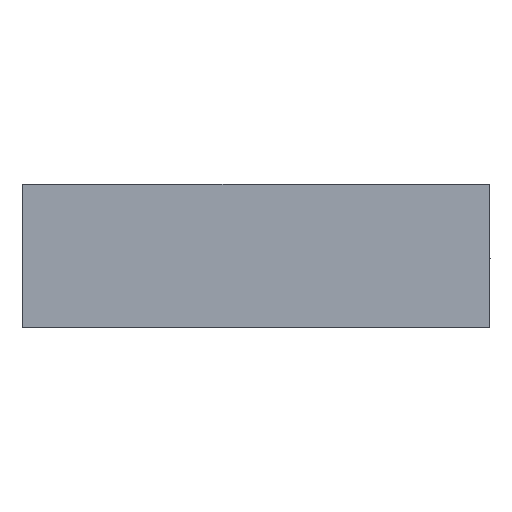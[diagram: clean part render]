
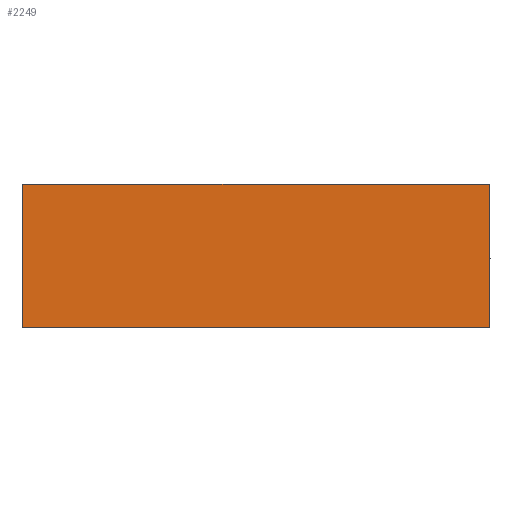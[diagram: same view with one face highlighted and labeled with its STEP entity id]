
A CAD part, front view. The second image highlights one B-rep face of the part: STEP entity #2249.
In plain terms, the highlighted planar face has unit normal (0, -1, 0).
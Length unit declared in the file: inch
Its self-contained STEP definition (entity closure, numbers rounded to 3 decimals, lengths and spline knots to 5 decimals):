
#78 = LINE ( 'NONE', #3972, #21909 ) ;
#695 = LINE ( 'NONE', #5052, #18557 ) ;
#852 = VERTEX_POINT ( 'NONE', #20154 ) ;
#904 = LINE ( 'NONE', #22171, #14271 ) ;
#1182 = LINE ( 'NONE', #9454, #19517 ) ;
#1301 = VECTOR ( 'NONE', #2490, 39.37008 ) ;
#1366 = ORIENTED_EDGE ( 'NONE', *, *, #7230, .T. ) ;
#1367 = CARTESIAN_POINT ( 'NONE',  ( 9.58623, 0., 0. ) ) ;
#1795 = VERTEX_POINT ( 'NONE', #2923 ) ;
#1863 = DIRECTION ( 'NONE',  ( -1., 0., 0. ) ) ;
#2093 = VECTOR ( 'NONE', #9819, 39.37008 ) ;
#2159 = VECTOR ( 'NONE', #8678, 39.37008 ) ;
#2249 = ADVANCED_FACE ( 'NONE', ( #10739 ), #20969, .F. ) ;
#2490 = DIRECTION ( 'NONE',  ( -1., 0., 0. ) ) ;
#2829 = VERTEX_POINT ( 'NONE', #11012 ) ;
#2923 = CARTESIAN_POINT ( 'NONE',  ( 9.15377, 0., 0. ) ) ;
#3045 = LINE ( 'NONE', #17851, #21162 ) ;
#3066 = VERTEX_POINT ( 'NONE', #5134 ) ;
#3128 = CARTESIAN_POINT ( 'NONE',  ( 2.15377, 0., 0. ) ) ;
#3132 = ORIENTED_EDGE ( 'NONE', *, *, #5915, .T. ) ;
#3140 = CARTESIAN_POINT ( 'NONE',  ( 19.56, 0., -0.031 ) ) ;
#3543 = DIRECTION ( 'NONE',  ( -1., 0., 0. ) ) ;
#3972 = CARTESIAN_POINT ( 'NONE',  ( 19.56, 0., 0. ) ) ;
#4051 = DIRECTION ( 'NONE',  ( 0., 0., -1. ) ) ;
#4114 = CARTESIAN_POINT ( 'NONE',  ( 16.58623, 0., -0.031 ) ) ;
#4443 = LINE ( 'NONE', #12626, #13003 ) ;
#4574 = VERTEX_POINT ( 'NONE', #4114 ) ;
#4857 = VERTEX_POINT ( 'NONE', #12762 ) ;
#5016 = VERTEX_POINT ( 'NONE', #18789 ) ;
#5052 = CARTESIAN_POINT ( 'NONE',  ( 19.56, 0., -6. ) ) ;
#5134 = CARTESIAN_POINT ( 'NONE',  ( 0., 0., 0. ) ) ;
#5366 = CARTESIAN_POINT ( 'NONE',  ( 19.56, 0., 0. ) ) ;
#5532 = VERTEX_POINT ( 'NONE', #5366 ) ;
#5543 = LINE ( 'NONE', #20682, #10115 ) ;
#5667 = ORIENTED_EDGE ( 'NONE', *, *, #19879, .T. ) ;
#5731 = EDGE_CURVE ( 'NONE', #4574, #8993, #10682, .T. ) ;
#5784 = DIRECTION ( 'NONE',  ( -1., 0., 0. ) ) ;
#5900 = CARTESIAN_POINT ( 'NONE',  ( 2.58623, 0., -0.031 ) ) ;
#5915 = EDGE_CURVE ( 'NONE', #13438, #18146, #21432, .T. ) ;
#6058 = EDGE_CURVE ( 'NONE', #3066, #2829, #3045, .T. ) ;
#6130 = EDGE_CURVE ( 'NONE', #4857, #2829, #695, .T. ) ;
#6424 = EDGE_LOOP ( 'NONE', ( #7567, #12552, #10717, #11238, #17829, #9430, #19928, #15996, #9686, #5667, #1366, #3132, #8398, #13382, #11001, #16014 ) ) ;
#6562 = VERTEX_POINT ( 'NONE', #5900 ) ;
#6606 = EDGE_CURVE ( 'NONE', #18812, #3066, #4443, .T. ) ;
#6787 = CARTESIAN_POINT ( 'NONE',  ( 9.58623, 0., -0.031 ) ) ;
#6948 = VECTOR ( 'NONE', #11427, 39.37008 ) ;
#7137 = EDGE_CURVE ( 'NONE', #5532, #11079, #5543, .T. ) ;
#7141 = CARTESIAN_POINT ( 'NONE',  ( 19.56, 0., 0. ) ) ;
#7230 = EDGE_CURVE ( 'NONE', #852, #13438, #78, .T. ) ;
#7323 = EDGE_CURVE ( 'NONE', #1795, #17599, #21368, .T. ) ;
#7389 = EDGE_CURVE ( 'NONE', #11079, #4574, #20327, .T. ) ;
#7424 = EDGE_CURVE ( 'NONE', #18146, #10896, #19296, .T. ) ;
#7567 = ORIENTED_EDGE ( 'NONE', *, *, #8161, .T. ) ;
#7723 = DIRECTION ( 'NONE',  ( -1., 0., 0. ) ) ;
#8052 = CARTESIAN_POINT ( 'NONE',  ( 16.58623, 0., 0. ) ) ;
#8161 = EDGE_CURVE ( 'NONE', #6562, #5016, #904, .T. ) ;
#8195 = LINE ( 'NONE', #15987, #12646 ) ;
#8398 = ORIENTED_EDGE ( 'NONE', *, *, #7424, .T. ) ;
#8678 = DIRECTION ( 'NONE',  ( 0., 0., -1. ) ) ;
#8761 = CARTESIAN_POINT ( 'NONE',  ( 9.58623, 0., 0. ) ) ;
#8993 = VERTEX_POINT ( 'NONE', #13065 ) ;
#9255 = CARTESIAN_POINT ( 'NONE',  ( 16.58623, 0., 0. ) ) ;
#9430 = ORIENTED_EDGE ( 'NONE', *, *, #10345, .F. ) ;
#9454 = CARTESIAN_POINT ( 'NONE',  ( 16.15377, 0., 0. ) ) ;
#9489 = EDGE_CURVE ( 'NONE', #17599, #6562, #8195, .T. ) ;
#9657 = VECTOR ( 'NONE', #18321, 39.37008 ) ;
#9686 = ORIENTED_EDGE ( 'NONE', *, *, #5731, .T. ) ;
#9819 = DIRECTION ( 'NONE',  ( -1., 0., 0. ) ) ;
#10115 = VECTOR ( 'NONE', #1863, 39.37008 ) ;
#10345 = EDGE_CURVE ( 'NONE', #5532, #4857, #18951, .T. ) ;
#10682 = LINE ( 'NONE', #3140, #1301 ) ;
#10717 = ORIENTED_EDGE ( 'NONE', *, *, #6606, .T. ) ;
#10739 = FACE_OUTER_BOUND ( 'NONE', #6424, .T. ) ;
#10896 = VERTEX_POINT ( 'NONE', #22154 ) ;
#11001 = ORIENTED_EDGE ( 'NONE', *, *, #7323, .T. ) ;
#11012 = CARTESIAN_POINT ( 'NONE',  ( 0., 0., -6. ) ) ;
#11079 = VERTEX_POINT ( 'NONE', #9255 ) ;
#11238 = ORIENTED_EDGE ( 'NONE', *, *, #6058, .T. ) ;
#11427 = DIRECTION ( 'NONE',  ( 0., 0., -1. ) ) ;
#11497 = CARTESIAN_POINT ( 'NONE',  ( 19.56, 0., -0.031 ) ) ;
#11798 = DIRECTION ( 'NONE',  ( 0., 0., 1. ) ) ;
#12209 = DIRECTION ( 'NONE',  ( 0., 0., -1. ) ) ;
#12277 = DIRECTION ( 'NONE',  ( -1., 0., 0. ) ) ;
#12552 = ORIENTED_EDGE ( 'NONE', *, *, #14088, .T. ) ;
#12626 = CARTESIAN_POINT ( 'NONE',  ( 19.56, 0., 0. ) ) ;
#12646 = VECTOR ( 'NONE', #4051, 39.37008 ) ;
#12762 = CARTESIAN_POINT ( 'NONE',  ( 19.56, 0., -6. ) ) ;
#12972 = DIRECTION ( 'NONE',  ( -1., 0., 0. ) ) ;
#13003 = VECTOR ( 'NONE', #7723, 39.37008 ) ;
#13065 = CARTESIAN_POINT ( 'NONE',  ( 16.15377, 0., -0.031 ) ) ;
#13382 = ORIENTED_EDGE ( 'NONE', *, *, #14389, .T. ) ;
#13438 = VERTEX_POINT ( 'NONE', #1367 ) ;
#13960 = VECTOR ( 'NONE', #12209, 39.37008 ) ;
#14088 = EDGE_CURVE ( 'NONE', #5016, #18812, #14138, .T. ) ;
#14138 = LINE ( 'NONE', #16635, #9657 ) ;
#14271 = VECTOR ( 'NONE', #12277, 39.37008 ) ;
#14389 = EDGE_CURVE ( 'NONE', #10896, #1795, #16492, .T. ) ;
#14581 = CARTESIAN_POINT ( 'NONE',  ( 19.56, 0., 0. ) ) ;
#15430 = CARTESIAN_POINT ( 'NONE',  ( 2.58623, 0., 0. ) ) ;
#15987 = CARTESIAN_POINT ( 'NONE',  ( 2.58623, 0., 0. ) ) ;
#15996 = ORIENTED_EDGE ( 'NONE', *, *, #7389, .T. ) ;
#16014 = ORIENTED_EDGE ( 'NONE', *, *, #9489, .T. ) ;
#16492 = LINE ( 'NONE', #20146, #19893 ) ;
#16635 = CARTESIAN_POINT ( 'NONE',  ( 2.15377, 0., 0. ) ) ;
#17599 = VERTEX_POINT ( 'NONE', #15430 ) ;
#17807 = AXIS2_PLACEMENT_3D ( 'NONE', #21116, #20926, #20899 ) ;
#17829 = ORIENTED_EDGE ( 'NONE', *, *, #6130, .F. ) ;
#17851 = CARTESIAN_POINT ( 'NONE',  ( 0., 0., 0. ) ) ;
#17928 = DIRECTION ( 'NONE',  ( 0., 0., -1. ) ) ;
#18146 = VERTEX_POINT ( 'NONE', #6787 ) ;
#18321 = DIRECTION ( 'NONE',  ( 0., 0., 1. ) ) ;
#18557 = VECTOR ( 'NONE', #3543, 39.37008 ) ;
#18789 = CARTESIAN_POINT ( 'NONE',  ( 2.15377, 0., -0.031 ) ) ;
#18812 = VERTEX_POINT ( 'NONE', #3128 ) ;
#18951 = LINE ( 'NONE', #7141, #13960 ) ;
#19296 = LINE ( 'NONE', #11497, #2093 ) ;
#19507 = DIRECTION ( 'NONE',  ( 0., 0., 1. ) ) ;
#19517 = VECTOR ( 'NONE', #19507, 39.37008 ) ;
#19879 = EDGE_CURVE ( 'NONE', #8993, #852, #1182, .T. ) ;
#19893 = VECTOR ( 'NONE', #11798, 39.37008 ) ;
#19928 = ORIENTED_EDGE ( 'NONE', *, *, #7137, .T. ) ;
#20146 = CARTESIAN_POINT ( 'NONE',  ( 9.15377, 0., 0. ) ) ;
#20154 = CARTESIAN_POINT ( 'NONE',  ( 16.15377, 0., 0. ) ) ;
#20327 = LINE ( 'NONE', #8052, #6948 ) ;
#20682 = CARTESIAN_POINT ( 'NONE',  ( 19.56, 0., 0. ) ) ;
#20853 = VECTOR ( 'NONE', #12972, 39.37008 ) ;
#20899 = DIRECTION ( 'NONE',  ( 0., 0., 1. ) ) ;
#20926 = DIRECTION ( 'NONE',  ( 0., 1., 0. ) ) ;
#20969 = PLANE ( 'NONE',  #17807 ) ;
#21116 = CARTESIAN_POINT ( 'NONE',  ( 19.56, 0., 0. ) ) ;
#21162 = VECTOR ( 'NONE', #17928, 39.37008 ) ;
#21368 = LINE ( 'NONE', #14581, #20853 ) ;
#21432 = LINE ( 'NONE', #8761, #2159 ) ;
#21909 = VECTOR ( 'NONE', #5784, 39.37008 ) ;
#22154 = CARTESIAN_POINT ( 'NONE',  ( 9.15377, 0., -0.031 ) ) ;
#22171 = CARTESIAN_POINT ( 'NONE',  ( 19.56, 0., -0.031 ) ) ;
